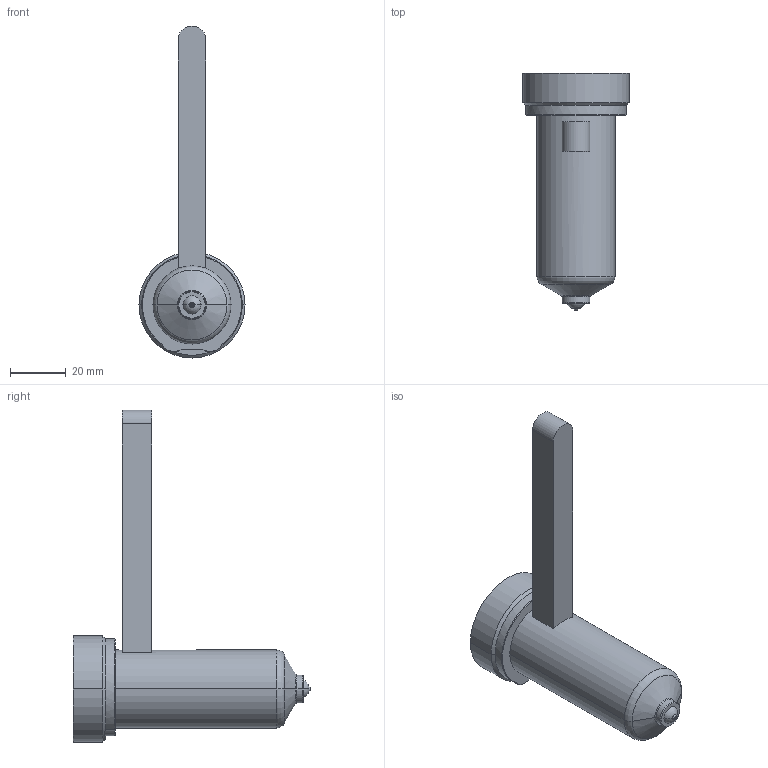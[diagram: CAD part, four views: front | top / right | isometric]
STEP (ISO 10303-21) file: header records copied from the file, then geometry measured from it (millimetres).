
FILE_DESCRIPTION((''),'2;1');
FILE_NAME('EO06_PG-BL_STD_070_COT','2024-02-19T11:00:54',('sundharh'),(''),'CREO PARAMETRIC BY PTC INC, 2023154','CREO PARAMETRIC BY PTC INC, 2023154','');
FILE_SCHEMA(('CONFIG_CONTROL_DESIGN'));
Length unit declared in the file: millimetre
Products named in the file (1): EO06_PG-BL_STD_070_COT
Bounding box: 38 x 85 x 119 mm (x, y, z)
Volume: 63943.4 mm3; surface area: 12829.7 mm2
Topology: 1 solids, 1 shells, 40 faces, 85 edges, 50 vertices
Faces by surface type: cylinder 13, plane 10, torus 9, cone 6, sphere 2
Entity records: 1197 total; most frequent: CARTESIAN_POINT 267, DIRECTION 209, ORIENTED_EDGE 170, AXIS2_PLACEMENT_3D 90, EDGE_CURVE 85, VERTEX_POINT 50, CIRCLE 50, EDGE_LOOP 43
